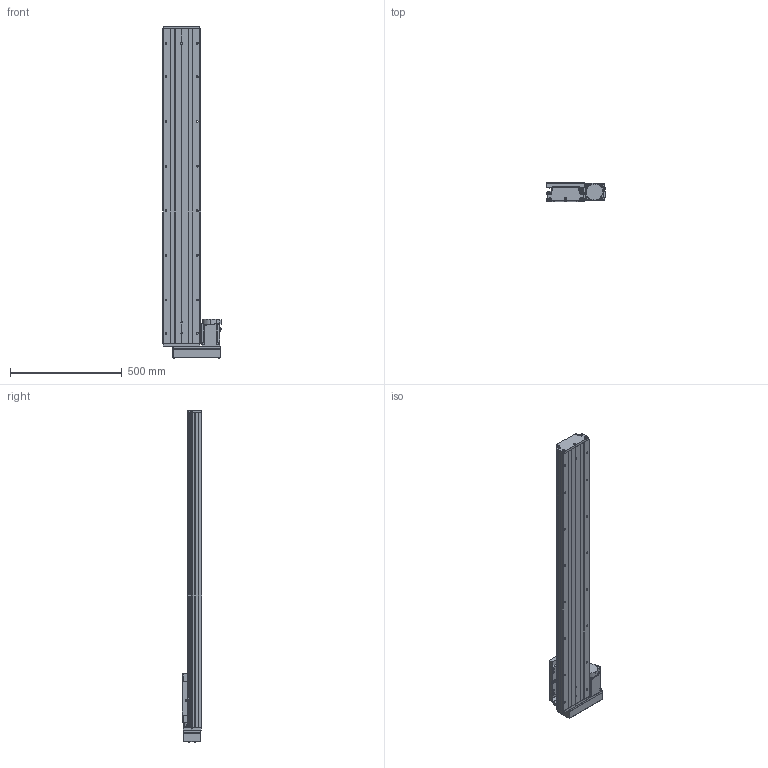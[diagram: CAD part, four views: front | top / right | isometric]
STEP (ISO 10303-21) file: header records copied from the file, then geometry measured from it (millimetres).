
FILE_DESCRIPTION (( 'STEP AP203' ), '1' );
FILE_NAME ('GTH17-1150-BR-M75-C4.step', '2023-06-30T13:17:13', ( '微软用户' ), ( '微软中国' ), 'SwSTEP 2.0', 'SolidWorks 2020', '' );
FILE_SCHEMA (( 'CONFIG_CONTROL_DESIGN' ));
Length unit declared in the file: millimetre
Products named in the file (19): GTH17-005; GBT 70.1-M6¡Á20_M6¡Á20; GTH17-033; GB1155-6X6; GTH17-031; GTH17-1150-BR-M75-C4; CTHA60-017; GBT 70.2-M3¡Á5_M3¡Á6; EE_SX911P_R; す晦芛蹟隊 M3℅5; GTH17-001_1150; CTHA60-016; HG-KN73J-S100; GTH17-002_GTH17-002; GBT 70.1-M3℅5; GBT 70.2-M4¡Á45_M4¡Á35; GTH17-004; GBT77-2000 M3×3; GTH17-015-2_CTHA86-015-2
Assembly tree (58 placements, depth 2):
  GTH17-1150-BR-M75-C4
    GTH17-001_1150
    GTH17-002_GTH17-002
    GTH17-004
    GTH17-005
    GB1155-6X6  x2
    CTHA60-017  x3
    EE_SX911P_R  x3
    CTHA60-016  x2
    GBT 70.1-M3℅5  x6
    GBT77-2000 M3×3  x6
    GBT 70.1-M6¡Á20_M6¡Á20  x10
    GTH17-031
    GBT 70.2-M3¡Á5_M3¡Á6  x8
    す晦芛蹟隊 M3℅5  x6
    HG-KN73J-S100
    GBT 70.2-M4¡Á45_M4¡Á35  x4
    GTH17-015-2_CTHA86-015-2
    GTH17-033
Bounding box: 264.3 x 87 x 1488.2 mm (x, y, z)
Volume: 12029294.1 mm3; surface area: 1584257.3 mm2
Topology: 61 solids, 61 shells, 2469 faces, 5893 edges, 3651 vertices
Faces by surface type: plane 1314, cylinder 682, cone 297, torus 124, sphere 32, bspline 20
Entity records: 45354 total; most frequent: CARTESIAN_POINT 10466, DIRECTION 6601, ORIENTED_EDGE 6498, EDGE_CURVE 3249, AXIS2_PLACEMENT_3D 2264, LINE 2073, VECTOR 2073, VERTEX_POINT 2063
